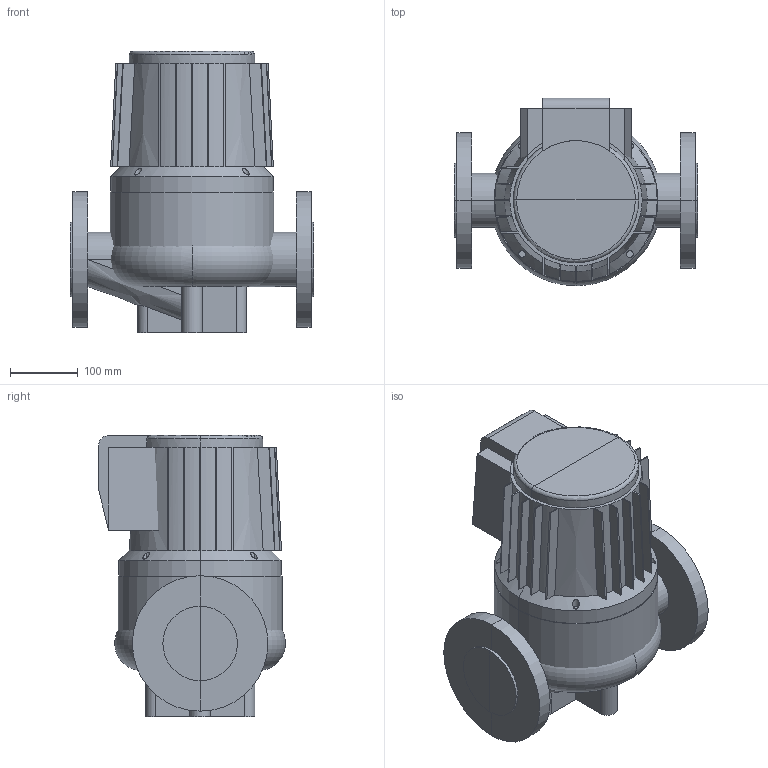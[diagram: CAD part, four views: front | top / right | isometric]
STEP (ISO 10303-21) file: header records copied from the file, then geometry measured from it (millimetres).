
FILE_DESCRIPTION(/* description */ (''),/* implementation_level */ '2;1');
FILE_NAME(/* name */ 'C:\Users\a.zyazeva\Desktop\Wellmix\TG TD WRE WRS\WRS 80-60 SF (380 В).stp',/* time_stamp */ '2024-08-28T00:49:46+03:00',/* author */ ('a.zyazeva'),/* organization */ (''),/* preprocessor_version */ 'ST-DEVELOPER v18.1',/* originating_system */ 'Autodesk Inventor 2022',/* authorisation */ '');
FILE_SCHEMA (('AUTOMOTIVE_DESIGN { 1 0 10303 214 3 1 1 }'));
Length unit declared in the file: millimetre
Products named in the file (1): WRS 80-60 SF (380 В)
Bounding box: 360 x 275.96 x 415 mm (x, y, z)
Volume: 21461509.2 mm3; surface area: 1071854.2 mm2
Topology: 6 solids, 6 shells, 167 faces, 401 edges, 247 vertices
Faces by surface type: plane 99, cylinder 30, cone 17, bspline 16, torus 5
Entity records: 6181 total; most frequent: CARTESIAN_POINT 2490, ORIENTED_EDGE 802, DIRECTION 684, EDGE_CURVE 401, AXIS2_PLACEMENT_3D 250, VERTEX_POINT 247, LINE 184, VECTOR 184
